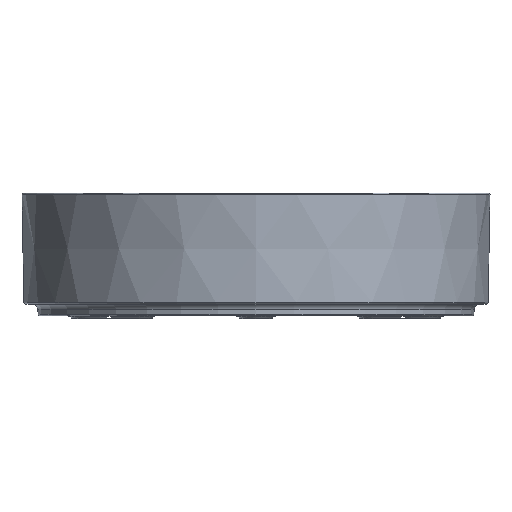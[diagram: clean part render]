
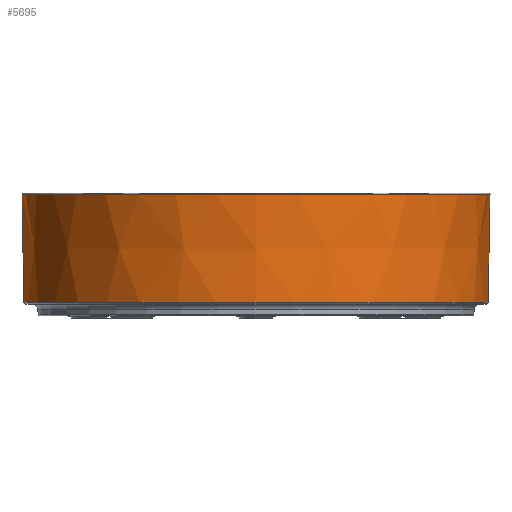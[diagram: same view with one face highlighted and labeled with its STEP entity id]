
A CAD part, front view. The second image highlights one B-rep face of the part: STEP entity #5695.
In plain terms, the highlighted conical face has half-angle 1 degrees and reference radius 59.751 mm.
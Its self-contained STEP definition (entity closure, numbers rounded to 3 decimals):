
#1439=CARTESIAN_POINT('',(0.,0.,28.));
#1440=DIRECTION('',(0.,0.,1.));
#1441=DIRECTION('',(-1.,0.,0.));
#1442=AXIS2_PLACEMENT_3D('',#1439,#1440,#1441);
#1444=CARTESIAN_POINT('',(0.,0.,0.491));
#1445=DIRECTION('',(0.,0.,-1.));
#1446=DIRECTION('',(1.,0.,0.));
#1447=AXIS2_PLACEMENT_3D('',#1444,#1445,#1446);
#1449=DIRECTION('',(-0.017,0.,1.));
#1450=VECTOR('',#1449,27.513);
#1451=CARTESIAN_POINT('',(-59.511,0.,0.491));
#1452=LINE('',#1451,#1450);
#1463=DIRECTION('',(0.017,0.,1.));
#1464=VECTOR('',#1463,27.513);
#1465=CARTESIAN_POINT('',(59.511,0.,
0.491));
#1466=LINE('',#1465,#1464);
#3993=CARTESIAN_POINT('',(-59.511,0.,0.491));
#3994=CARTESIAN_POINT('',(59.511,0.,0.491));
#3995=VERTEX_POINT('',#3993);
#3996=VERTEX_POINT('',#3994);
#3997=CARTESIAN_POINT('',(-59.991,0.,28.));
#3998=CARTESIAN_POINT('',(59.991,0.,28.));
#3999=VERTEX_POINT('',#3997);
#4000=VERTEX_POINT('',#3998);
#5681=CARTESIAN_POINT('',(0.,0.,14.246));
#5682=DIRECTION('',(0.,0.,1.));
#5683=DIRECTION('',(1.,0.,0.));
#5684=AXIS2_PLACEMENT_3D('',#5681,#5682,#5683);
#5685=CONICAL_SURFACE('',#5684,59.751,1.);
#5686=ORIENTED_EDGE('',*,*,#5670,.T.);
#5688=ORIENTED_EDGE('',*,*,#5687,.F.);
#5690=ORIENTED_EDGE('',*,*,#5689,.T.);
#5692=ORIENTED_EDGE('',*,*,#5691,.T.);
#5693=EDGE_LOOP('',(#5686,#5688,#5690,#5692));
#5694=FACE_OUTER_BOUND('',#5693,.F.);
#5695=ADVANCED_FACE('',(#5694),#5685,.T.);
#1443=CIRCLE('',#1442,59.991);
#1448=CIRCLE('',#1447,59.511);
#5670=EDGE_CURVE('',#3999,#4000,#1443,.T.);
#5687=EDGE_CURVE('',#3996,#4000,#1466,.T.);
#5689=EDGE_CURVE('',#3996,#3995,#1448,.T.);
#5691=EDGE_CURVE('',#3995,#3999,#1452,.T.);
